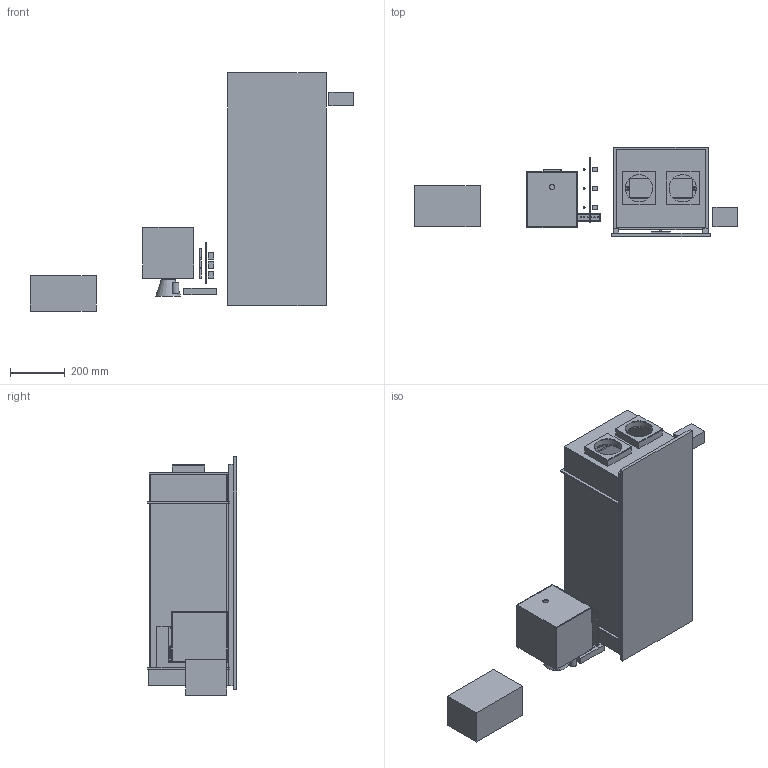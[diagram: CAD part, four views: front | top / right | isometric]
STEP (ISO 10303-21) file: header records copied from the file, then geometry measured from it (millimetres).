
FILE_DESCRIPTION(('Open CASCADE Model'),'2;1');
FILE_NAME('Open CASCADE Shape Model','2026-10-16T18:52:00',('Author'),( 'Open CASCADE'),'Open CASCADE STEP processor 7.8','Open CASCADE 7.8' ,'Unknown');
FILE_SCHEMA(('AUTOMOTIVE_DESIGN { 1 0 10303 214 1 1 1 1 }'));
Length unit declared in the file: millimetre
Products named in the file (71): FN_LAB_v03; B01; B02; B03; B04; B05; B06; C01; C02; C03; E01; E02; E03; E04; E05; E06; R01; R02; R03; R04; R05; R06; R07; ZLL; VLL; TLL; ZLC; VLC; TLC; ZLR; VLR; TLR; ZML; VML; TML; ZMC; VMC; TMC; ZMR; VMR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
Assembly tree (70 placements, depth 2):
  FN_LAB_v03
    B01
    B02
    B03
    B04
    B05
    B06
    C01
    C02
    C03
    E01
    E02
    E03
    E04
    E05
    E06
    R01
    R02
    R03
    R04
    R05
    R06
    R07
    ZLL
    VLL
    TLL
    ZLC
    VLC
    TLC
    ZLR
    VLR
    TLR
    ZML
    VML
    TML
    ZMC
    VMC
    TMC
    ZMR
    VMR
    TMR
    ZHL
    VHL
    THL
    ZHC
    VHC
    THC
    ZHR
    VHR
    THR
    G01
    G02
    G11
    G12
    G13
    V00
    R08
    R09
    M01
    H01
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Bounding box: 1180 x 326 x 870 mm (x, y, z)
Volume: 20474825.8 mm3; surface area: 4527209.6 mm2
Topology: 70 solids, 70 shells, 590 faces, 1209 edges, 806 vertices
Faces by surface type: plane 483, cylinder 105, cone 2
Full cylindrical faces by diameter (mm): 2 x27, 4 x54, 5 x1, 5.5 x2, 6 x9, 8 x1, 20 x3, 24 x1, 50 x1, 100 x2, 110 x2, 112 x2
Entity records: 33350 total; most frequent: CARTESIAN_POINT 6004, DIRECTION 4913, LINE 3081, VECTOR 3081, ORIENTED_EDGE 2418, PCURVE 2418, DEFINITIONAL_REPRESENTATION 2418, EDGE_CURVE 1209
